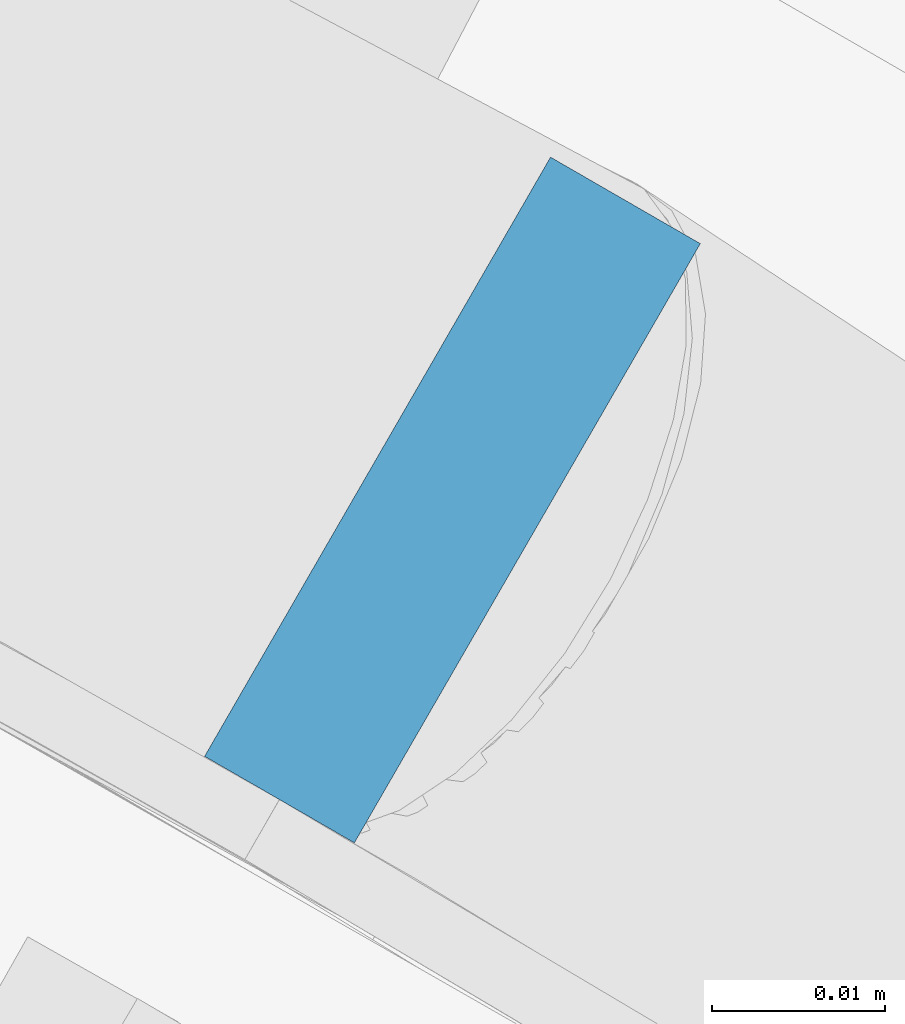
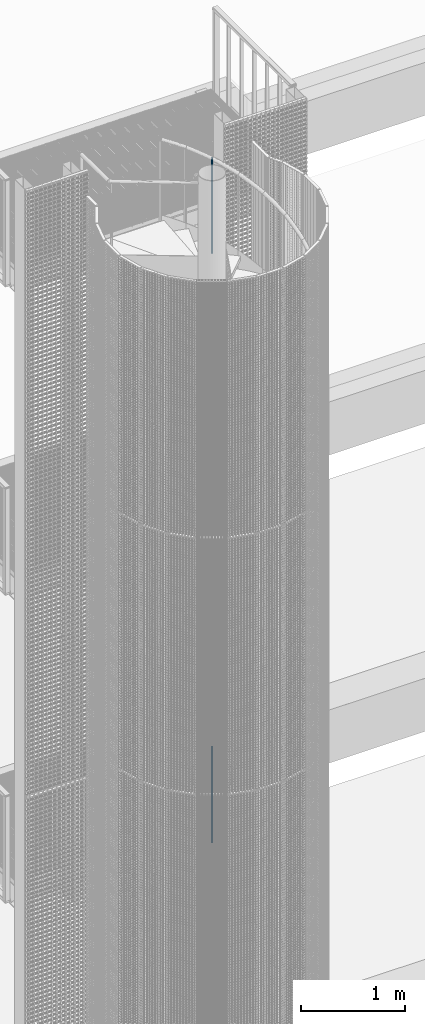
# One storey, part 30 of 1183: 2 columns, 2 elements without a shape of their own.
"""IFC2X3 building model written with IfcOpenShell, lengths in millimetres."""

from ifc_helpers import new_model, si_unit, frame, origin_with_axes, origin_2d_with_axis, place, context, subcontext, project, spatial, rectangle, extrude, material, type_object, element, aggregate, save


model = new_model("IFC2X3")

# Units and contexts
model_context = context("Model", 3, precision=1e-05, world=origin_with_axes())
body_context = subcontext(model_context, "Body", "Model", "MODEL_VIEW")
ifc_project = project(units=[si_unit("LENGTHUNIT", "METRE", prefix="MILLI"), si_unit("AREAUNIT", "SQUARE_METRE"), si_unit("VOLUMEUNIT", "CUBIC_METRE"), si_unit("MASSUNIT", "GRAM", prefix="KILO"), si_unit("TIMEUNIT", "SECOND"), si_unit("PLANEANGLEUNIT", "RADIAN"), si_unit("SOLIDANGLEUNIT", "STERADIAN"), si_unit("THERMODYNAMICTEMPERATUREUNIT", "DEGREE_CELSIUS"), si_unit("LUMINOUSINTENSITYUNIT", "LUMEN")], contexts=[model_context])

# Site, building, storey
site_placement = place(None, origin_with_axes())
site = spatial("IfcSite", under=ifc_project, at=site_placement, Name="Undefined", CompositionType="ELEMENT")
building_placement = place(site_placement, origin_with_axes())
building = spatial("IfcBuilding", under=site, at=building_placement, Name="Undefined", CompositionType="ELEMENT")
storey_placement = place(building_placement, origin_with_axes())
storey = spatial("IfcBuildingStorey", under=building, at=storey_placement, Name="Undefined", CompositionType="ELEMENT", Elevation=0.0)

# Assembly, column
assembly_1_placement = place(storey_placement, origin_with_axes())
assembly_1 = element("IfcElementAssembly", 1, at=assembly_1_placement, inside=storey, Name="MONTANT", AssemblyPlace="NOTDEFINED", PredefinedType="NOTDEFINED")
ifc_material = material(Name="STEEL/S235JR")
column_type = type_object("IfcColumnType", Name="PL10*40", PredefinedType="NOTDEFINED")
column_1_placement = place(assembly_1_placement, frame((527.000000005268, 912.790775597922, 16820.4), z_axis=(0.0, 0.0, 1.0), x_axis=(-0.49999999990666, -0.866025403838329, 0.0)))
column_1 = element("IfcColumn", 2, at=column_1_placement, type_object=column_type, material=ifc_material, Name="MONTANT", context=body_context, shape_type="SweptSolid", body=[
    extrude(rectangle(XDim=10.0, YDim=40.0, at=origin_2d_with_axis()), frame((0.0, 0.0, 1100.0), z_axis=(0.0, 0.0, -1.0), x_axis=(0.0, 1.0, 0.0)), (0.0, 0.0, 1.0), 1100.0),
])
aggregate(assembly_1, [column_1])

assembly_2_placement = place(storey_placement, origin_with_axes())
assembly_2 = element("IfcElementAssembly", 3, at=assembly_2_placement, inside=storey, Name="MONTANT", AssemblyPlace="NOTDEFINED", PredefinedType="NOTDEFINED")
column_2_placement = place(assembly_2_placement, frame((527.000000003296, 912.790775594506, 9933.44000000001), z_axis=(0.0, 0.0, 1.0), x_axis=(-0.49999999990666, -0.866025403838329, 0.0)))
column_2 = element("IfcColumn", 4, at=column_2_placement, type_object=column_type, material=ifc_material, Name="MONTANT", context=body_context, shape_type="SweptSolid", body=[
    extrude(rectangle(XDim=10.0, YDim=40.0, at=origin_2d_with_axis()), frame((0.0, 0.0, 1100.0), z_axis=(0.0, 0.0, -1.0), x_axis=(0.0, 1.0, 0.0)), (0.0, 0.0, 1.0), 1100.0),
])
aggregate(assembly_2, [column_2])

save(model, "model.ifc")
